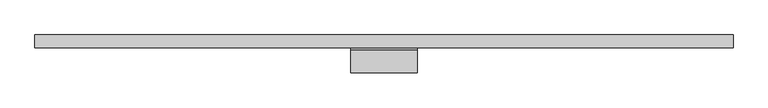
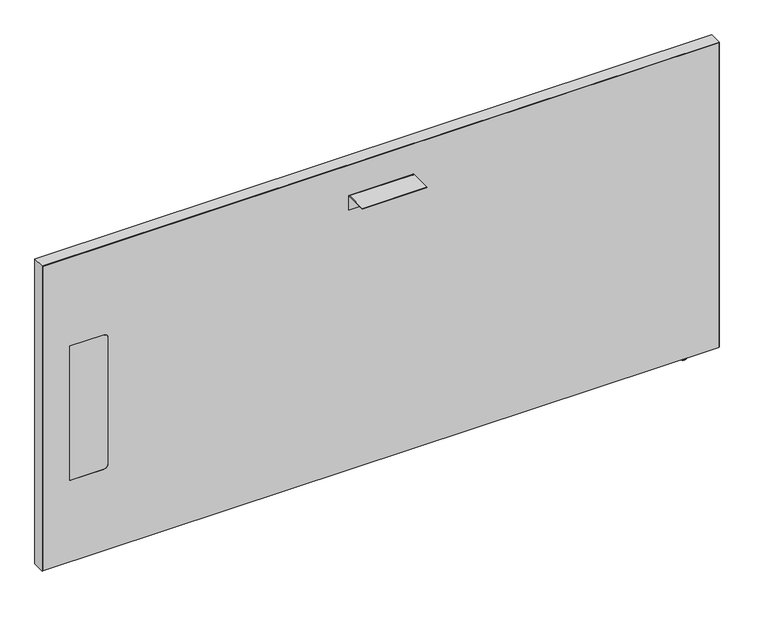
"""IFC4 building model written with IfcOpenShell, lengths in millimetres: furniture geometry, Steelcase - Answer Solution - Boundary Screen - Straight - Single Sided : 30H x 63W."""

import ifcopenshell
import ifcopenshell.guid

model = None  # the IFC model being written
_history = None  # IfcOwnerHistory: only IFC2X3 demands one
_inside = {}  # id of a spatial element -> (the spatial element, [elements in it])
_under = {}  # id of a project, library or spatial element -> (it, [spatial elements below it])
_declared = {}  # id of a project -> (the project, [libraries it declares])
_typed = {}  # id of a type object -> (the type object, [elements of that type])
_made_of = {}  # id of a material, layer set ... -> (it, [elements and type objects made of it])


def new_model(schema):
    """Start an empty IFC model of exactly this schema.

    Asked for "IFC4X3", IfcOpenShell would pick the latest addendum, in which some entities
    have other attributes; the version numbers below select the first issue.
    IFC2X3 requires an IfcOwnerHistory on every rooted entity: one is made here for all.
    """
    global model, _history
    if schema == "IFC4X3":
        model = ifcopenshell.file(schema_version=(4, 3, 0, 0))
    else:
        model = ifcopenshell.file(schema=schema)
    _inside.clear()
    _under.clear()
    _declared.clear()
    _typed.clear()
    _made_of.clear()
    _history = None
    if model.schema == "IFC2X3":
        org = make("IfcOrganization", Name="unknown")
        user = make(
            "IfcPersonAndOrganization",
            ThePerson=make("IfcPerson", FamilyName="unknown"),
            TheOrganization=org,
        )
        app = make(
            "IfcApplication",
            ApplicationDeveloper=org,
            Version="unknown",
            ApplicationFullName="unknown",
            ApplicationIdentifier="unknown",
        )
        _history = make(
            "IfcOwnerHistory",
            OwningUser=user,
            OwningApplication=app,
            ChangeAction="ADDED",
            CreationDate=0,
        )
    return model


def make(cls, **values):
    """One entity of the class cls with the attributes given. An attribute that is None is left unset."""
    return model.create_entity(
        cls, **{name: value for name, value in values.items() if value is not None}
    )


def rooted(cls, **values):
    """An entity with a GlobalId (a new one), such as an element, a storey or a relation."""
    return make(cls, GlobalId=ifcopenshell.guid.new(), OwnerHistory=_history, **values)


def si_unit(unit_type, name, prefix=None):
    """IfcSIUnit, for example si_unit("LENGTHUNIT", "METRE", prefix="MILLI")."""
    return make("IfcSIUnit", UnitType=unit_type, Prefix=prefix, Name=name)


def assignment(units):
    """IfcUnitAssignment: the units of a project."""
    return None if units is None else make("IfcUnitAssignment", Units=units)


def point(xyz):
    """IfcCartesianPoint."""
    return None if xyz is None else make("IfcCartesianPoint", Coordinates=xyz)


def direction(xyz):
    """IfcDirection."""
    return None if xyz is None else make("IfcDirection", DirectionRatios=xyz)


def frame(location, z_axis=None, x_axis=None):
    """IfcAxis2Placement3D, a coordinate frame: its origin and axes. An axis left out is left unset."""
    return make(
        "IfcAxis2Placement3D",
        Location=point(location),
        Axis=direction(z_axis),
        RefDirection=direction(x_axis),
    )


def frame_2d(location, x_axis=None):
    """IfcAxis2Placement2D, a coordinate frame in the plane: its origin and x axis."""
    return make(
        "IfcAxis2Placement2D", Location=point(location), RefDirection=direction(x_axis)
    )


def origin():
    """The frame at (0, 0, 0) with its axes left unset."""
    return frame((0.0, 0.0, 0.0))


def place(relative_to, where):
    """IfcLocalPlacement: puts the frame where relative to a parent placement (None: the world)."""
    return make(
        "IfcLocalPlacement", PlacementRelTo=relative_to, RelativePlacement=where
    )


def context(
    kind, dimensions, precision=None, world=None, true_north=None, identifier=None
):
    """IfcGeometricRepresentationContext, for example the 3D "Model" context."""
    return make(
        "IfcGeometricRepresentationContext",
        ContextIdentifier=identifier,
        ContextType=kind,
        CoordinateSpaceDimension=dimensions,
        Precision=precision,
        WorldCoordinateSystem=world,
        TrueNorth=true_north,
    )


def project(units=None, contexts=None):
    """IfcProject with its units and contexts."""
    return rooted(
        "IfcProject",
        Name="project",
        RepresentationContexts=contexts,
        UnitsInContext=assignment(units),
    )


def spatial(cls, under=None, at=None, **own):
    """A site, building, storey or space (cls), placed at a placement, below another one or the project."""
    s = rooted(cls, ObjectPlacement=at, **own)
    if under is not None:
        _under.setdefault(under.id(), (under, []))[1].append(s)
    return s


def polyline(points):
    """IfcPolyline through the points."""
    return make("IfcPolyline", Points=[point(p) for p in points])


def circle_curve(where, radius):
    """IfcCircle in the frame where."""
    return make("IfcCircle", Position=where, Radius=radius)


def ellipse_curve(where, semi_axis1, semi_axis2):
    """IfcEllipse in the frame where."""
    return make(
        "IfcEllipse", Position=where, SemiAxis1=semi_axis1, SemiAxis2=semi_axis2
    )


def trimmed(basis, trim1, trim2, sense, master):
    """IfcTrimmedCurve: the piece of a basis curve between two trims."""
    return make(
        "IfcTrimmedCurve",
        BasisCurve=basis,
        Trim1=trim1,
        Trim2=trim2,
        SenseAgreement=sense,
        MasterRepresentation=master,
    )


def segment(curve, same_sense, transition):
    """IfcCompositeCurveSegment."""
    return make(
        "IfcCompositeCurveSegment",
        Transition=transition,
        SameSense=same_sense,
        ParentCurve=curve,
    )


def composite_curve(segments, self_intersect=None):
    """IfcCompositeCurve: segments joined end to end."""
    return make("IfcCompositeCurve", Segments=segments, SelfIntersect=self_intersect)


def outline(outer, holes=None, kind="AREA"):
    """IfcArbitraryClosedProfileDef: a profile drawn as a closed curve; with holes, ...WithVoids."""
    if holes is None:
        return make("IfcArbitraryClosedProfileDef", ProfileType=kind, OuterCurve=outer)
    return make(
        "IfcArbitraryProfileDefWithVoids",
        ProfileType=kind,
        OuterCurve=outer,
        InnerCurves=holes,
    )


def extrude(swept, where, along, depth):
    """IfcExtrudedAreaSolid: the profile swept, set in the frame where, extruded along a direction by depth."""
    return make(
        "IfcExtrudedAreaSolid",
        SweptArea=swept,
        Position=where,
        ExtrudedDirection=direction(along),
        Depth=depth,
    )


def shape(context_of_items, identifier, shape_type, items):
    """IfcShapeRepresentation: the items that make up one representation, for example the "Body"."""
    return make(
        "IfcShapeRepresentation",
        ContextOfItems=context_of_items,
        RepresentationIdentifier=identifier,
        RepresentationType=shape_type,
        Items=items,
    )


def source(mapping_origin, context_of_items, identifier, shape_type, items):
    """IfcRepresentationMap: a shape defined once, which mapped items show again and again."""
    return make(
        "IfcRepresentationMap",
        MappingOrigin=mapping_origin,
        MappedRepresentation=shape(context_of_items, identifier, shape_type, items),
    )


def transform(
    local_origin,
    x_axis=None,
    y_axis=None,
    z_axis=None,
    scale=None,
    scale2=None,
    scale3=None,
    uniform=True,
):
    """IfcCartesianTransformationOperator3D, or its non-uniform kind. x_axis, y_axis, z_axis: its Axis1, 2, 3."""
    if uniform:
        return make(
            "IfcCartesianTransformationOperator3D",
            Axis1=direction(x_axis),
            Axis2=direction(y_axis),
            LocalOrigin=point(local_origin),
            Scale=scale,
            Axis3=direction(z_axis),
        )
    return make(
        "IfcCartesianTransformationOperator3DnonUniform",
        Axis1=direction(x_axis),
        Axis2=direction(y_axis),
        LocalOrigin=point(local_origin),
        Scale=scale,
        Axis3=direction(z_axis),
        Scale2=scale2,
        Scale3=scale3,
    )


def mapped(mapping_source, mapping_target):
    """IfcMappedItem: shows the shape of a source again, moved by a transform."""
    return make(
        "IfcMappedItem", MappingSource=mapping_source, MappingTarget=mapping_target
    )


def made_of(thing, what):
    """Note that an element or type object is made of a material, layer set ...; save() writes the relation."""
    if what is not None:
        _made_of.setdefault(what.id(), (what, []))[1].append(thing)
    return thing


def element(
    cls,
    number,
    at=None,
    inside=None,
    cuts=None,
    type_object=None,
    material=None,
    context=None,
    identifier="Body",
    shape_type=None,
    held_by="IfcProductDefinitionShape",
    body=None,
    shapes=None,
    **own,
):
    """One element of the class cls, such as IfcWall. Its Tag is "e" and its number.

    at: its placement. inside: the storey or other place that contains it. cuts: it is an
    opening in that element (IfcRelVoidsElement). A single representation is given by context,
    identifier, shape_type and body (its items); several are given by shapes. held_by: the class
    of the entity that holds the representations. save() writes the other relations.
    """
    e = rooted(cls, Tag="e%d" % number, ObjectPlacement=at, **own)
    if body is not None:
        shapes = [shape(context, identifier, shape_type, body)]
    if shapes is not None:
        e.Representation = make(held_by, Representations=shapes)
    if inside is not None:
        _inside.setdefault(inside.id(), (inside, []))[1].append(e)
    if cuts is not None:
        rooted(
            "IfcRelVoidsElement", RelatingBuildingElement=cuts, RelatedOpeningElement=e
        )
    if type_object is not None:
        _typed.setdefault(type_object.id(), (type_object, []))[1].append(e)
    return made_of(e, material)


def aggregate(whole, parts):
    """IfcRelAggregates: a whole, such as a stair, and the parts it consists of."""
    return rooted("IfcRelAggregates", RelatingObject=whole, RelatedObjects=parts)


def save(model, path):
    """Write the relations noted so far, then the file.

    IfcRelAggregates (storeys below a building ...), IfcRelContainedInSpatialStructure (elements
    in a storey), IfcRelDefinesByType, IfcRelAssociatesMaterial and IfcRelDeclares: one each for
    every whole, place, type object, material and project.
    """
    for whole, parts in _under.values():
        aggregate(whole, parts)
    for where, things in _inside.values():
        rooted(
            "IfcRelContainedInSpatialStructure",
            RelatedElements=things,
            RelatingStructure=where,
        )
    for kind, things in _typed.values():
        rooted("IfcRelDefinesByType", RelatedObjects=things, RelatingType=kind)
    for what, things in _made_of.values():
        rooted("IfcRelAssociatesMaterial", RelatedObjects=things, RelatingMaterial=what)
    for by, libraries in _declared.values():
        rooted("IfcRelDeclares", RelatingContext=by, RelatedDefinitions=libraries)
    model.write(path)


def plane_surface(at):
    """IfcPlane: the flat surface through the origin of the frame at, square to its z axis."""
    return make("IfcPlane", Position=at)


def cylinder_surface(at, radius):
    """IfcCylindricalSurface: all points at the distance radius from the z axis of the frame at."""
    return make("IfcCylindricalSurface", Position=at, Radius=radius)


def revolved_surface(curve, axis_point, axis_direction):
    """IfcSurfaceOfRevolution: the curve turned about the line through axis_point along axis_direction."""
    return make(
        "IfcSurfaceOfRevolution",
        SweptCurve=make("IfcArbitraryOpenProfileDef", ProfileType="CURVE", Curve=curve),
        AxisPosition=make("IfcAxis1Placement", Location=point(axis_point), Axis=direction(axis_direction)),
    )


def advanced_brep(points, edges, surfaces, faces):
    """IfcAdvancedBrep: a solid bounded by faces that lie on surfaces and meet in shared edges.

    An edge is (start, end): straight between two places in points (the first is 0);
    or (start, end, curve); or (start, end, curve, False) where it runs against its curve.
    A face is (place in surfaces, loops), or (place, loops, False) where it looks against
    its surface's normal. A loop lists edges by number (the first is 1), with a minus sign
    where the edge is run from its end to its start. The first loop is the outer one.
    """
    corners = [point(p) for p in points]
    vertices = [make("IfcVertexPoint", VertexGeometry=c) for c in corners]
    made = []
    for start, end, *more in edges:
        made.append(
            make(
                "IfcEdgeCurve",
                EdgeStart=vertices[start],
                EdgeEnd=vertices[end],
                EdgeGeometry=more[0] if more else make("IfcPolyline", Points=[corners[start], corners[end]]),
                SameSense=more[1] if len(more) > 1 else True,
            )
        )
    hull = []
    for where, loops, *sense in faces:
        bounds = []
        for j, loop in enumerate(loops):
            ring = [make("IfcOrientedEdge", EdgeElement=made[abs(k) - 1], Orientation=k > 0) for k in loop]
            bounds.append(
                make(
                    "IfcFaceOuterBound" if j == 0 else "IfcFaceBound",
                    Bound=make("IfcEdgeLoop", EdgeList=ring),
                    Orientation=True,
                )
            )
        hull.append(make("IfcAdvancedFace", Bounds=bounds, FaceSurface=surfaces[where], SameSense=sense[0] if sense else True))
    return make("IfcAdvancedBrep", Outer=make("IfcClosedShell", CfsFaces=hull))


def furniture_4e3d934f(model_context):
    return source(origin(), model_context, "Body", "SolidModel", [
        extrude(outline(composite_curve([segment(polyline([(-86.8398151, 696.4680019), (-86.8398151, 698.5), (-34.9450855, 698.5)]), True, "CONTINUOUS"), segment(trimmed(circle_curve(frame_2d((-34.9450855, 693.2447477)), 5.2552523), [point((-34.9450855, 698.5))], [point((-29.6898332, 693.2447477))], False, "CARTESIAN"), True, "CONTINUOUS"), segment(polyline([(-29.6898332, 693.2447477), (-29.6898332, 660.4), (-31.7218162, 660.4), (-31.7218162, 693.0058743)]), True, "CONTINUOUS"), segment(trimmed(circle_curve(frame_2d((-35.1839438, 693.0058743)), 3.4621276), [point((-31.7218162, 693.0058743))], [point((-35.1839438, 696.4680019))], True, "CARTESIAN"), True, "CONTINUOUS"), segment(polyline([(-35.1839438, 696.4680019), (-86.8398151, 696.4680019)]), True, "CONTINUOUS")], self_intersect=False)), frame((77.4191407, 0.0, 0.0), z_axis=(1.0, 0.0, 0.0), x_axis=(0.0, 1.0, 0.0)), (0.0, 0.0, 1.0), 152.4000969),
        advanced_brep(
        [(876.5286488, -23.7588726, 9.9059849), (876.5286488, -5.9309607, 9.9059849), (876.5286488, -14.8449166, 9.9059849), (876.5286488, -23.7588726, 2.9673238), (876.5286488, -5.9309607, 2.9673238), (876.5286488, -22.7915354, 2.9673238), (876.5286488, -6.8982978, 2.9673238), (876.5286488, -22.7915354, 1.6569081), (876.5286488, -6.8982978, 1.6569081), (876.5286488, -21.1346274, 0.0), (876.5286488, -8.5552059, 0.0), (876.5286488, -14.8449166, 0.0)],
        [
            (0, 1, circle_curve(frame((876.5286488, -14.8449166, 9.9059849), z_axis=(0.0, 0.0, 1.0), x_axis=(0.0, 1.0, 0.0)), 8.913956)),
            (1, 2),
            (2, 0),
            (1, 0, circle_curve(frame((876.5286488, -14.8449166, 9.9059849), z_axis=(0.0, 0.0, 1.0), x_axis=(0.0, 1.0, 0.0)), 8.913956)),
            (3, 4, circle_curve(frame((876.5286488, -14.8449166, 2.9673238), z_axis=(0.0, 0.0, 1.0), x_axis=(0.0, 1.0, 0.0)), 8.913956)),
            (4, 1),
            (0, 3),
            (4, 3, circle_curve(frame((876.5286488, -14.8449166, 2.9673238), z_axis=(0.0, 0.0, 1.0), x_axis=(0.0, 1.0, 0.0)), 8.913956)),
            (5, 6, circle_curve(frame((876.5286488, -14.8449166, 2.9673238), z_axis=(0.0, 0.0, 1.0), x_axis=(0.0, 1.0, 0.0)), 7.9466188)),
            (6, 4),
            (3, 5),
            (6, 5, circle_curve(frame((876.5286488, -14.8449166, 2.9673238), z_axis=(0.0, 0.0, 1.0), x_axis=(0.0, 1.0, 0.0)), 7.9466188)),
            (7, 8, circle_curve(frame((876.5286488, -14.8449166, 1.6569081), z_axis=(0.0, 0.0, 1.0), x_axis=(0.0, 1.0, 0.0)), 7.9466188)),
            (8, 6),
            (5, 7),
            (8, 7, circle_curve(frame((876.5286488, -14.8449166, 1.6569081), z_axis=(0.0, 0.0, 1.0), x_axis=(0.0, 1.0, 0.0)), 7.9466188)),
            (9, 10, circle_curve(frame((876.5286488, -14.8449166, 0.0), z_axis=(0.0, 0.0, 1.0), x_axis=(0.0, 1.0, 0.0)), 6.2897107)),
            (10, 8, circle_curve(frame((876.5286488, -8.5552059, 1.6569081), z_axis=(1.0, 0.0, 0.0), x_axis=(0.0, 1.0, 0.0)), 1.6569081)),
            (7, 9, circle_curve(frame((876.5286488, -21.1346274, 1.6569081), z_axis=(1.0, 0.0, 0.0), x_axis=(0.0, -1.0, 0.0)), 1.6569081)),
            (10, 9, circle_curve(frame((876.5286488, -14.8449166, 0.0), z_axis=(0.0, 0.0, 1.0), x_axis=(0.0, 1.0, 0.0)), 6.2897107)),
            (11, 10),
            (9, 11),
        ],
        [
            plane_surface(frame((876.5286488, -14.8449166, 9.9059849), z_axis=(0.0, 0.0, 1.0), x_axis=(0.0, 1.0, 0.0))),
            cylinder_surface(frame((876.5286488, -14.8449166, 9.9059849), z_axis=(0.0, 0.0, -1.0), x_axis=(0.0, 1.0, 0.0)), 8.913956),
            plane_surface(frame((876.5286488, -14.8449166, 2.9673238), z_axis=(0.0, 0.0, -1.0), x_axis=(0.0, 1.0, 0.0))),
            cylinder_surface(frame((876.5286488, -14.8449166, 9.9059849), z_axis=(0.0, 0.0, -1.0), x_axis=(0.0, 1.0, 0.0)), 7.9466188),
            revolved_surface(trimmed(ellipse_curve(frame((876.5286488, -8.5552059, 1.6569081), z_axis=(-1.0, 0.0, 0.0), x_axis=(0.0, 1.0, 0.0)), 1.6569081, 1.6569081), [point((876.5286488, -6.8982978, 1.6569081))], [point((876.5286488, -8.5552059, 0.0))], True, "CARTESIAN"), (876.5286488, -14.8449166, 9.9059849), (0.0, 0.0, -1.0)),
            plane_surface(frame((876.5286488, -14.8449166, 0.0), z_axis=(0.0, 0.0, -1.0), x_axis=(0.0, 1.0, 0.0))),
        ],
        [
            (0, [[1, 2, 3]]),
            (0, [[4, -3, -2]]),
            (1, [[5, 6, -1, 7]]),
            (1, [[8, -7, -4, -6]]),
            (2, [[9, 10, -5, 11]]),
            (2, [[12, -11, -8, -10]]),
            (3, [[13, 14, -9, 15]]),
            (3, [[16, -15, -12, -14]]),
            (4, [[17, 18, -13, 19]]),
            (4, [[20, -19, -16, -18]]),
            (5, [[21, -17, 22]]),
            (5, [[-22, -20, -21]]),
        ],
    ),
        advanced_brep(
        [(952.6780168, 0.0, 771.942118), (952.6780168, 0.0, 9.9059849), (-645.4902221, 0.0, 9.9059849), (-645.4902221, 0.0, 771.942118), (952.6780168, -29.6898332, 771.942118), (-645.4902221, -29.6898332, 771.942118), (-645.4902221, -29.6898332, 9.9059849), (952.6780168, -29.6898332, 9.9059849), (-501.1463873, -29.6898332, 549.6162029), (-490.9863873, -29.6898332, 539.4562029), (-490.9863873, -29.6898332, 223.9362137), (-501.1463873, -29.6898332, 213.7762137), (-580.800285, -29.6898332, 213.7762137), (-580.800285, -29.6898332, 549.6162029), (-580.800285, -29.0550397, 549.6162029), (-501.1463873, -29.0550397, 549.6162029), (-580.800285, -29.0550397, 213.7762137), (-501.1463873, -29.0550397, 213.7762137), (-490.9863873, -29.0550397, 223.9362137), (-490.9863873, -29.0550397, 539.4562029)],
        [
            (0, 1),
            (1, 2),
            (2, 3),
            (3, 0),
            (4, 5),
            (5, 6),
            (6, 7),
            (7, 4),
            (8, 9, circle_curve(frame((-501.1463873, -29.6898332, 539.4562029), z_axis=(0.0, 1.0, 0.0), x_axis=(0.0, 0.0, 1.0)), 10.16)),
            (9, 10),
            (10, 11, circle_curve(frame((-501.1463873, -29.6898332, 223.9362137), z_axis=(0.0, 1.0, 0.0), x_axis=(0.0, 0.0, 1.0)), 10.16)),
            (11, 12),
            (12, 13),
            (13, 8),
            (0, 4),
            (7, 1),
            (6, 2),
            (5, 3),
            (13, 14),
            (14, 15),
            (15, 8),
            (12, 16),
            (16, 14),
            (11, 17),
            (17, 16),
            (10, 18),
            (18, 17, circle_curve(frame((-501.1463873, -29.0550397, 223.9362137), z_axis=(0.0, 1.0, 0.0), x_axis=(0.0, 0.0, 1.0)), 10.16)),
            (9, 19),
            (19, 18),
            (15, 19, circle_curve(frame((-501.1463873, -29.0550397, 539.4562029), z_axis=(0.0, 1.0, 0.0), x_axis=(0.0, 0.0, 1.0)), 10.16)),
        ],
        [
            plane_surface(frame((952.6780168, 0.0, 771.942118), z_axis=(0.0, 1.0, 0.0), x_axis=(0.0, 0.0, -1.0))),
            plane_surface(frame((952.6780168, -29.6898332, 771.942118), z_axis=(0.0, -1.0, 0.0), x_axis=(0.0, 0.0, 1.0))),
            plane_surface(frame((952.6780168, 0.0, 771.942118), z_axis=(1.0, 0.0, 0.0), x_axis=(0.0, -1.0, 0.0))),
            plane_surface(frame((952.6780168, 0.0, 9.9059849), z_axis=(0.0, 0.0, -1.0), x_axis=(0.0, -1.0, 0.0))),
            plane_surface(frame((-645.4902221, 0.0, 9.9059849), z_axis=(-1.0, 0.0, 0.0), x_axis=(0.0, -1.0, 0.0))),
            plane_surface(frame((-645.4902221, 0.0, 771.942118), z_axis=(0.0, 0.0, 1.0), x_axis=(0.0, -1.0, 0.0))),
            plane_surface(frame((-501.1463873, 0.0, 549.6162029), z_axis=(0.0, 0.0, -1.0), x_axis=(0.0, -1.0, 0.0))),
            plane_surface(frame((-580.800285, 0.0, 549.6162029), z_axis=(1.0, 0.0, 0.0), x_axis=(0.0, -1.0, 0.0))),
            plane_surface(frame((-580.800285, 0.0, 213.7762137), z_axis=(0.0, 0.0, 1.0), x_axis=(0.0, -1.0, 0.0))),
            revolved_surface(polyline([(-501.1463873, -29.6898332, 234.0962137), (-501.1463873, -29.0550397, 234.0962137)]), (-501.1463873, -29.6898332, 223.9362137), (0.0, -1.0, 0.0)),
            plane_surface(frame((-490.9863873, 0.0, 223.9362137), z_axis=(-1.0, 0.0, 0.0), x_axis=(0.0, -1.0, 0.0))),
            revolved_surface(polyline([(-501.1463873, -29.6898332, 549.6162029), (-501.1463873, -29.0550397, 549.6162029)]), (-501.1463873, -29.6898332, 539.4562029), (0.0, -1.0, 0.0)),
            plane_surface(frame((-490.9863873, -29.0550397, 629.172953), z_axis=(0.0, -1.0, 0.0), x_axis=(0.0, 0.0, 1.0))),
        ],
        [
            (0, [[1, 2, 3, 4]]),
            (1, [[5, 6, 7, 8], [9, 10, 11, 12, 13, 14]]),
            (2, [[-1, 15, -8, 16]]),
            (3, [[-2, -16, -7, 17]]),
            (4, [[-3, -17, -6, 18]]),
            (5, [[-4, -18, -5, -15]]),
            (6, [[-14, 19, 20, 21]]),
            (7, [[-13, 22, 23, -19]]),
            (8, [[-12, 24, 25, -22]]),
            (9, [[-11, 26, 27, -24]]),
            (10, [[-10, 28, 29, -26]]),
            (11, [[-9, -21, 30, -28]]),
            (12, [[-20, -23, -25, -27, -29, -30]]),
        ],
    ),
        extrude(outline(composite_curve([segment(polyline([(549.6162029, -501.1463873), (549.6162029, -580.800285), (213.7762137, -580.800285), (213.7762137, -501.1463873)]), True, "CONTINUOUS"), segment(trimmed(circle_curve(frame_2d((223.9362137, -501.1463873)), 10.16), [point((213.7762137, -501.1463873))], [point((223.9362137, -490.9863873))], False, "CARTESIAN"), True, "CONTINUOUS"), segment(polyline([(223.9362137, -490.9863873), (539.4562029, -490.9863873)]), True, "CONTINUOUS"), segment(trimmed(circle_curve(frame_2d((539.4562029, -501.1463873)), 10.16), [point((539.4562029, -490.9863873))], [point((549.6162029, -501.1463873))], False, "CARTESIAN"), True, "CONTINUOUS")], self_intersect=False)), frame((0.0, -29.6898332, 0.0), z_axis=(0.0, 1.0, 0.0), x_axis=(0.0, 0.0, 1.0)), (0.0, 0.0, 1.0), 0.6347935),
        extrude(outline(polyline([(772.922, 953.7191891), (772.922, -646.4808109), (9.9059849, -646.4808109), (9.9059849, -645.4902221), (771.942118, -645.4902221), (771.942118, 952.6780168), (9.9059849, 952.6780168), (9.9059849, 953.7191891), (772.922, 953.7191891)])), frame((0.0, -29.6898332, 0.0), z_axis=(0.0, 1.0, 0.0), x_axis=(0.0, 0.0, 1.0)), (0.0, 0.0, 1.0), 29.6898332),
    ])


if __name__ == "__main__":
    model = new_model("IFC4")
    model_context = context("Model", 3, world=origin())
    ifc_project = project(units=[si_unit("LENGTHUNIT", "METRE", prefix="MILLI")], contexts=[model_context])
    site = spatial("IfcSite", under=ifc_project)
    building = spatial("IfcBuilding", under=site)
    placement = place(None, origin())
    furniture_shape = furniture_4e3d934f(model_context)
    element("IfcFurniture", 1, ObjectType="Steelcase - Answer Solution - Boundary Screen - Straight - Single Sided : 30H x 63W", at=placement, inside=building, context=model_context, shape_type="MappedRepresentation", body=[
        mapped(furniture_shape, transform((0.0, 0.0, 0.0), x_axis=(1.0, 0.0, 0.0), y_axis=(0.0, 1.0, 0.0), z_axis=(0.0, 0.0, 1.0))),
    ])
    save(model, "model.ifc")
